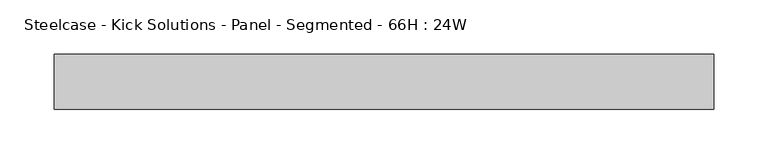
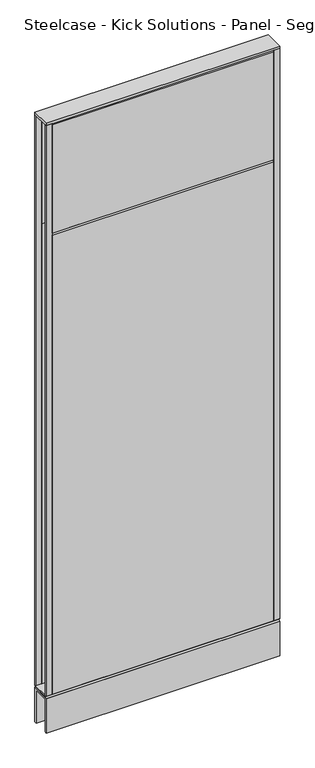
"""IFC4 building model written with IfcOpenShell, lengths in millimetres: furniture geometry, Steelcase - Kick Solutions - Panel - Segmented - 66H : 24W."""

import ifcopenshell
import ifcopenshell.guid

model = None  # the IFC model being written
_history = None  # IfcOwnerHistory: only IFC2X3 demands one
_inside = {}  # id of a spatial element -> (the spatial element, [elements in it])
_under = {}  # id of a project, library or spatial element -> (it, [spatial elements below it])
_declared = {}  # id of a project -> (the project, [libraries it declares])
_typed = {}  # id of a type object -> (the type object, [elements of that type])
_made_of = {}  # id of a material, layer set ... -> (it, [elements and type objects made of it])


def new_model(schema):
    """Start an empty IFC model of exactly this schema.

    Asked for "IFC4X3", IfcOpenShell would pick the latest addendum, in which some entities
    have other attributes; the version numbers below select the first issue.
    IFC2X3 requires an IfcOwnerHistory on every rooted entity: one is made here for all.
    """
    global model, _history
    if schema == "IFC4X3":
        model = ifcopenshell.file(schema_version=(4, 3, 0, 0))
    else:
        model = ifcopenshell.file(schema=schema)
    _inside.clear()
    _under.clear()
    _declared.clear()
    _typed.clear()
    _made_of.clear()
    _history = None
    if model.schema == "IFC2X3":
        org = make("IfcOrganization", Name="unknown")
        user = make(
            "IfcPersonAndOrganization",
            ThePerson=make("IfcPerson", FamilyName="unknown"),
            TheOrganization=org,
        )
        app = make(
            "IfcApplication",
            ApplicationDeveloper=org,
            Version="unknown",
            ApplicationFullName="unknown",
            ApplicationIdentifier="unknown",
        )
        _history = make(
            "IfcOwnerHistory",
            OwningUser=user,
            OwningApplication=app,
            ChangeAction="ADDED",
            CreationDate=0,
        )
    return model


def make(cls, **values):
    """One entity of the class cls with the attributes given. An attribute that is None is left unset."""
    return model.create_entity(
        cls, **{name: value for name, value in values.items() if value is not None}
    )


def rooted(cls, **values):
    """An entity with a GlobalId (a new one), such as an element, a storey or a relation."""
    return make(cls, GlobalId=ifcopenshell.guid.new(), OwnerHistory=_history, **values)


def si_unit(unit_type, name, prefix=None):
    """IfcSIUnit, for example si_unit("LENGTHUNIT", "METRE", prefix="MILLI")."""
    return make("IfcSIUnit", UnitType=unit_type, Prefix=prefix, Name=name)


def assignment(units):
    """IfcUnitAssignment: the units of a project."""
    return None if units is None else make("IfcUnitAssignment", Units=units)


def point(xyz):
    """IfcCartesianPoint."""
    return None if xyz is None else make("IfcCartesianPoint", Coordinates=xyz)


def direction(xyz):
    """IfcDirection."""
    return None if xyz is None else make("IfcDirection", DirectionRatios=xyz)


def frame(location, z_axis=None, x_axis=None):
    """IfcAxis2Placement3D, a coordinate frame: its origin and axes. An axis left out is left unset."""
    return make(
        "IfcAxis2Placement3D",
        Location=point(location),
        Axis=direction(z_axis),
        RefDirection=direction(x_axis),
    )


def origin():
    """The frame at (0, 0, 0) with its axes left unset."""
    return frame((0.0, 0.0, 0.0))


def place(relative_to, where):
    """IfcLocalPlacement: puts the frame where relative to a parent placement (None: the world)."""
    return make(
        "IfcLocalPlacement", PlacementRelTo=relative_to, RelativePlacement=where
    )


def context(
    kind, dimensions, precision=None, world=None, true_north=None, identifier=None
):
    """IfcGeometricRepresentationContext, for example the 3D "Model" context."""
    return make(
        "IfcGeometricRepresentationContext",
        ContextIdentifier=identifier,
        ContextType=kind,
        CoordinateSpaceDimension=dimensions,
        Precision=precision,
        WorldCoordinateSystem=world,
        TrueNorth=true_north,
    )


def project(units=None, contexts=None):
    """IfcProject with its units and contexts."""
    return rooted(
        "IfcProject",
        Name="project",
        RepresentationContexts=contexts,
        UnitsInContext=assignment(units),
    )


def spatial(cls, under=None, at=None, **own):
    """A site, building, storey or space (cls), placed at a placement, below another one or the project."""
    s = rooted(cls, ObjectPlacement=at, **own)
    if under is not None:
        _under.setdefault(under.id(), (under, []))[1].append(s)
    return s


def polyline(points):
    """IfcPolyline through the points."""
    return make("IfcPolyline", Points=[point(p) for p in points])


def outline(outer, holes=None, kind="AREA"):
    """IfcArbitraryClosedProfileDef: a profile drawn as a closed curve; with holes, ...WithVoids."""
    if holes is None:
        return make("IfcArbitraryClosedProfileDef", ProfileType=kind, OuterCurve=outer)
    return make(
        "IfcArbitraryProfileDefWithVoids",
        ProfileType=kind,
        OuterCurve=outer,
        InnerCurves=holes,
    )


def extrude(swept, where, along, depth):
    """IfcExtrudedAreaSolid: the profile swept, set in the frame where, extruded along a direction by depth."""
    return make(
        "IfcExtrudedAreaSolid",
        SweptArea=swept,
        Position=where,
        ExtrudedDirection=direction(along),
        Depth=depth,
    )


def shape(context_of_items, identifier, shape_type, items):
    """IfcShapeRepresentation: the items that make up one representation, for example the "Body"."""
    return make(
        "IfcShapeRepresentation",
        ContextOfItems=context_of_items,
        RepresentationIdentifier=identifier,
        RepresentationType=shape_type,
        Items=items,
    )


def source(mapping_origin, context_of_items, identifier, shape_type, items):
    """IfcRepresentationMap: a shape defined once, which mapped items show again and again."""
    return make(
        "IfcRepresentationMap",
        MappingOrigin=mapping_origin,
        MappedRepresentation=shape(context_of_items, identifier, shape_type, items),
    )


def transform(
    local_origin,
    x_axis=None,
    y_axis=None,
    z_axis=None,
    scale=None,
    scale2=None,
    scale3=None,
    uniform=True,
):
    """IfcCartesianTransformationOperator3D, or its non-uniform kind. x_axis, y_axis, z_axis: its Axis1, 2, 3."""
    if uniform:
        return make(
            "IfcCartesianTransformationOperator3D",
            Axis1=direction(x_axis),
            Axis2=direction(y_axis),
            LocalOrigin=point(local_origin),
            Scale=scale,
            Axis3=direction(z_axis),
        )
    return make(
        "IfcCartesianTransformationOperator3DnonUniform",
        Axis1=direction(x_axis),
        Axis2=direction(y_axis),
        LocalOrigin=point(local_origin),
        Scale=scale,
        Axis3=direction(z_axis),
        Scale2=scale2,
        Scale3=scale3,
    )


def mapped(mapping_source, mapping_target):
    """IfcMappedItem: shows the shape of a source again, moved by a transform."""
    return make(
        "IfcMappedItem", MappingSource=mapping_source, MappingTarget=mapping_target
    )


def made_of(thing, what):
    """Note that an element or type object is made of a material, layer set ...; save() writes the relation."""
    if what is not None:
        _made_of.setdefault(what.id(), (what, []))[1].append(thing)
    return thing


def element(
    cls,
    number,
    at=None,
    inside=None,
    cuts=None,
    type_object=None,
    material=None,
    context=None,
    identifier="Body",
    shape_type=None,
    held_by="IfcProductDefinitionShape",
    body=None,
    shapes=None,
    **own,
):
    """One element of the class cls, such as IfcWall. Its Tag is "e" and its number.

    at: its placement. inside: the storey or other place that contains it. cuts: it is an
    opening in that element (IfcRelVoidsElement). A single representation is given by context,
    identifier, shape_type and body (its items); several are given by shapes. held_by: the class
    of the entity that holds the representations. save() writes the other relations.
    """
    e = rooted(cls, Tag="e%d" % number, ObjectPlacement=at, **own)
    if body is not None:
        shapes = [shape(context, identifier, shape_type, body)]
    if shapes is not None:
        e.Representation = make(held_by, Representations=shapes)
    if inside is not None:
        _inside.setdefault(inside.id(), (inside, []))[1].append(e)
    if cuts is not None:
        rooted(
            "IfcRelVoidsElement", RelatingBuildingElement=cuts, RelatedOpeningElement=e
        )
    if type_object is not None:
        _typed.setdefault(type_object.id(), (type_object, []))[1].append(e)
    return made_of(e, material)


def aggregate(whole, parts):
    """IfcRelAggregates: a whole, such as a stair, and the parts it consists of."""
    return rooted("IfcRelAggregates", RelatingObject=whole, RelatedObjects=parts)


def save(model, path):
    """Write the relations noted so far, then the file.

    IfcRelAggregates (storeys below a building ...), IfcRelContainedInSpatialStructure (elements
    in a storey), IfcRelDefinesByType, IfcRelAssociatesMaterial and IfcRelDeclares: one each for
    every whole, place, type object, material and project.
    """
    for whole, parts in _under.values():
        aggregate(whole, parts)
    for where, things in _inside.values():
        rooted(
            "IfcRelContainedInSpatialStructure",
            RelatedElements=things,
            RelatingStructure=where,
        )
    for kind, things in _typed.values():
        rooted("IfcRelDefinesByType", RelatedObjects=things, RelatingType=kind)
    for what, things in _made_of.values():
        rooted("IfcRelAssociatesMaterial", RelatedObjects=things, RelatingMaterial=what)
    for by, libraries in _declared.values():
        rooted("IfcRelDeclares", RelatingContext=by, RelatedDefinitions=libraries)
    model.write(path)


def steelcase_kick_solutions_panel_segmented_66h_24w_89cc0469(model_context):
    return source(origin(), model_context, "Body", "SweptSolid", [
        extrude(outline(polyline([(1.5e-06, 1374.6811552), (-3.175, 1371.6), (-3.175, 1676.4), (1.5e-06, 1673.3188448), (1.5e-06, 1374.6811552)])), frame((15.8749996, 0.0, 0.0), z_axis=(1.0, 0.0, 0.0), x_axis=(0.0, 1.0, 0.0)), (0.0, 0.0, 1.0), 577.8500008),
        extrude(outline(polyline([(1.5e-06, 101.600003), (-3.175, 101.600003), (-3.175, 1371.6), (1.5e-06, 1368.5188448), (1.5e-06, 101.600003)])), frame((15.8749996, 0.0, 0.0), z_axis=(1.0, 0.0, 0.0), x_axis=(0.0, 1.0, 0.0)), (0.0, 0.0, 1.0), 577.8500008),
        extrude(outline(polyline([(-50.8000015, 1374.6811552), (-50.8000015, 1673.3188448), (-47.625, 1676.4), (-47.625, 1371.6), (-50.8000015, 1374.6811552)])), frame((15.8749996, 0.0, 0.0), z_axis=(1.0, 0.0, 0.0), x_axis=(0.0, 1.0, 0.0)), (0.0, 0.0, 1.0), 577.8500008),
        extrude(outline(polyline([(-50.8000015, 101.600003), (-50.8000015, 1368.5188448), (-47.625, 1371.6), (-47.625, 101.600003), (-50.8000015, 101.600003)])), frame((15.8749996, 0.0, 0.0), z_axis=(1.0, 0.0, 0.0), x_axis=(0.0, 1.0, 0.0)), (0.0, 0.0, 1.0), 577.8500008),
        extrude(outline(polyline([(609.6, -3.1750015), (593.7250004, -3.1750015), (593.7250004, 0.0), (609.6, 0.0), (609.6, -3.1750015)])), frame((0.0, 0.0, 101.7169049), z_axis=(0.0, 0.0, 1.0), x_axis=(1.0, 0.0, 0.0)), (0.0, 0.0, 1.0), 1574.799997),
        extrude(outline(polyline([(15.8749996, -50.8000015), (0.0, -50.8000015), (0.0, -47.625), (15.8749996, -47.625), (15.8749996, -50.8000015)])), frame((0.0, 0.0, 101.7169049), z_axis=(0.0, 0.0, 1.0), x_axis=(1.0, 0.0, 0.0)), (0.0, 0.0, 1.0), 1574.799997),
        extrude(outline(polyline([(-50.7995075, 101.7169049), (-0.000494, 101.7169049), (-3.0583512, 98.5421458), (-47.7416503, 98.5421458), (-50.7995075, 101.7169049)])), frame((0.0, 0.0, 0.0), z_axis=(1.0, 0.0, 0.0), x_axis=(0.0, 1.0, 0.0)), (0.0, 0.0, 1.0), 609.6),
        extrude(outline(polyline([(609.6, 0.0), (609.6, -50.8000015), (0.0, -50.8000015), (0.0, 0.0), (609.6, 0.0)])), frame((0.0, 0.0, 1676.5169018), z_axis=(0.0, 0.0, 1.0), x_axis=(1.0, 0.0, 0.0)), (0.0, 0.0, 1.0), 6.35),
        extrude(outline(polyline([(15.8749996, -3.1750015), (0.0, -3.1750015), (0.0, 0.0), (15.8749996, 0.0), (15.8749996, -3.1750015)])), frame((0.0, 0.0, 101.7169049), z_axis=(0.0, 0.0, 1.0), x_axis=(1.0, 0.0, 0.0)), (0.0, 0.0, 1.0), 1574.799997),
        extrude(outline(polyline([(609.6, -50.8000015), (593.7250004, -50.8000015), (593.7250004, -47.625), (609.6, -47.625), (609.6, -50.8000015)])), frame((0.0, 0.0, 101.7169049), z_axis=(0.0, 0.0, 1.0), x_axis=(1.0, 0.0, 0.0)), (0.0, 0.0, 1.0), 1574.799997),
        extrude(outline(polyline([(-50.8000015, 95.3668927), (-47.6247484, 98.5421458), (-3.1752531, 98.5421458), (0.0, 95.3668927), (-50.8000015, 95.3668927)])), frame((0.0, 0.0, 0.0), z_axis=(1.0, 0.0, 0.0), x_axis=(0.0, 1.0, 0.0)), (0.0, 0.0, 1.0), 609.6),
        extrude(outline(polyline([(0.0, 0.0), (-5.08, 0.0), (-5.08, 90.2869018), (-45.7200015, 90.2869018), (-45.7200015, 0.0), (-50.8000015, 0.0), (-50.8000015, 95.3669018), (0.0, 95.3669018), (0.0, 0.0)])), frame((0.0, 0.0, 0.0), z_axis=(1.0, 0.0, 0.0), x_axis=(0.0, 1.0, 0.0)), (0.0, 0.0, 1.0), 609.6),
    ])


if __name__ == "__main__":
    model = new_model("IFC4")
    model_context = context("Model", 3, world=origin())
    ifc_project = project(units=[si_unit("LENGTHUNIT", "METRE", prefix="MILLI")], contexts=[model_context])
    site = spatial("IfcSite", under=ifc_project)
    building = spatial("IfcBuilding", under=site)
    placement = place(None, origin())
    steelcase_kick_solutions_panel_segmented_66h_24w_shape = steelcase_kick_solutions_panel_segmented_66h_24w_89cc0469(model_context)
    element("IfcFurniture", 1, ObjectType="Steelcase - Kick Solutions - Panel - Segmented - 66H : 24W", at=placement, inside=building, context=model_context, shape_type="MappedRepresentation", body=[
        mapped(steelcase_kick_solutions_panel_segmented_66h_24w_shape, transform((0.0, 0.0, 0.0), x_axis=(1.0, 0.0, 0.0), y_axis=(0.0, 1.0, 0.0), z_axis=(0.0, 0.0, 1.0))),
    ])
    save(model, "model.ifc")
